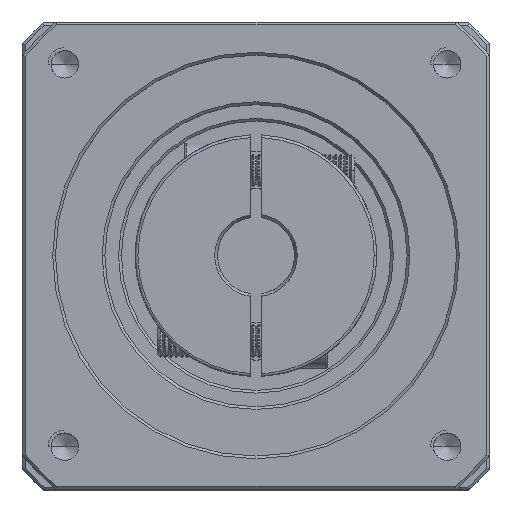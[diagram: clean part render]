
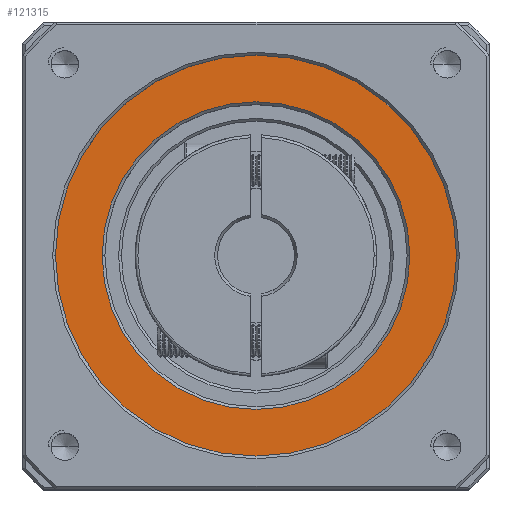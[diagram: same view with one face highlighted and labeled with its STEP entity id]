
A CAD part, top view. The second image highlights one B-rep face of the part: STEP entity #121315.
In plain terms, the highlighted planar face has unit normal (0, 0, 1).
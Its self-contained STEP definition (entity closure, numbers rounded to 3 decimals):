
#51 = ORIENTED_EDGE ( 'NONE', *, *, #70949, .T. ) ;
#2330 = EDGE_CURVE ( 'NONE', #127291, #96616, #67850, .T. ) ;
#6709 = CARTESIAN_POINT ( 'NONE',  ( -91.499, 28.575, 12.383 ) ) ;
#6919 = CARTESIAN_POINT ( 'NONE',  ( -35.499, 28.575, 12.383 ) ) ;
#7527 = CARTESIAN_POINT ( 'NONE',  ( -99.999, 28.575, 12.383 ) ) ;
#10346 = FACE_BOUND ( 'NONE', #57640, .T. ) ;
#13950 = EDGE_CURVE ( 'NONE', #59766, #110873, #109165, .T. ) ;
#15803 = CARTESIAN_POINT ( 'NONE',  ( -63.499, 28.575, 12.383 ) ) ;
#28049 = AXIS2_PLACEMENT_3D ( 'NONE', #15803, #46530, #65631 ) ;
#29316 = DIRECTION ( 'NONE',  ( 1., 0., 0. ) ) ;
#30701 = DIRECTION ( 'NONE',  ( 0., 0., 1. ) ) ;
#30896 = DIRECTION ( 'NONE',  ( 0., 0., -1. ) ) ;
#31324 = CARTESIAN_POINT ( 'NONE',  ( -63.499, 28.575, 12.383 ) ) ;
#32252 = CIRCLE ( 'NONE', #28049, 36.5 ) ;
#33731 = FACE_OUTER_BOUND ( 'NONE', #117922, .T. ) ;
#33839 = CARTESIAN_POINT ( 'NONE',  ( -26.999, 28.575, 12.383 ) ) ;
#34814 = PLANE ( 'NONE',  #84464 ) ;
#45156 = DIRECTION ( 'NONE',  ( 1., 0., 0. ) ) ;
#46530 = DIRECTION ( 'NONE',  ( 0., 0., 1. ) ) ;
#49876 = ORIENTED_EDGE ( 'NONE', *, *, #127188, .T. ) ;
#50995 = CARTESIAN_POINT ( 'NONE',  ( -63.499, 28.575, 12.383 ) ) ;
#54036 = ORIENTED_EDGE ( 'NONE', *, *, #2330, .T. ) ;
#54538 = AXIS2_PLACEMENT_3D ( 'NONE', #67860, #107914, #29316 ) ;
#54686 = CARTESIAN_POINT ( 'NONE',  ( -63.499, 28.575, 12.383 ) ) ;
#57640 = EDGE_LOOP ( 'NONE', ( #51, #110980 ) ) ;
#58665 = AXIS2_PLACEMENT_3D ( 'NONE', #31324, #30896, #102071 ) ;
#59766 = VERTEX_POINT ( 'NONE', #6709 ) ;
#65631 = DIRECTION ( 'NONE',  ( 1., 0., 0. ) ) ;
#67850 = CIRCLE ( 'NONE', #107662, 36.5 ) ;
#67860 = CARTESIAN_POINT ( 'NONE',  ( -63.499, 28.575, 12.383 ) ) ;
#70949 = EDGE_CURVE ( 'NONE', #110873, #59766, #98300, .T. ) ;
#84464 = AXIS2_PLACEMENT_3D ( 'NONE', #54686, #114746, #45156 ) ;
#96616 = VERTEX_POINT ( 'NONE', #33839 ) ;
#98300 = CIRCLE ( 'NONE', #58665, 28. ) ;
#102071 = DIRECTION ( 'NONE',  ( 1., 0., 0. ) ) ;
#107662 = AXIS2_PLACEMENT_3D ( 'NONE', #50995, #30701, #120601 ) ;
#107914 = DIRECTION ( 'NONE',  ( 0., 0., -1. ) ) ;
#109165 = CIRCLE ( 'NONE', #54538, 28. ) ;
#110873 = VERTEX_POINT ( 'NONE', #6919 ) ;
#110980 = ORIENTED_EDGE ( 'NONE', *, *, #13950, .T. ) ;
#114746 = DIRECTION ( 'NONE',  ( 0., 0., 1. ) ) ;
#117922 = EDGE_LOOP ( 'NONE', ( #49876, #54036 ) ) ;
#120601 = DIRECTION ( 'NONE',  ( 1., 0., 0. ) ) ;
#121315 = ADVANCED_FACE ( 'NONE', ( #33731, #10346 ), #34814, .T. ) ;
#127188 = EDGE_CURVE ( 'NONE', #96616, #127291, #32252, .T. ) ;
#127291 = VERTEX_POINT ( 'NONE', #7527 ) ;
